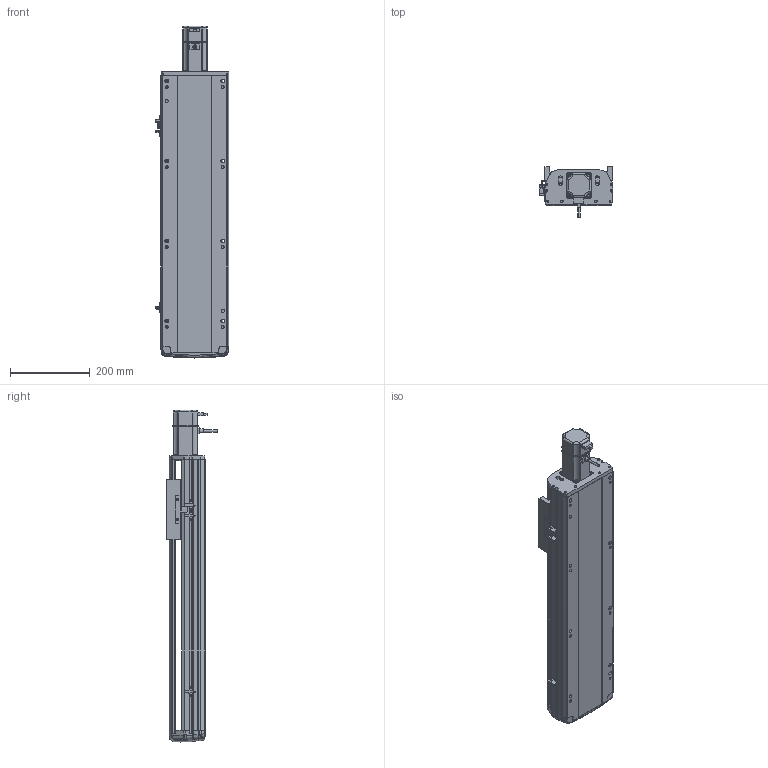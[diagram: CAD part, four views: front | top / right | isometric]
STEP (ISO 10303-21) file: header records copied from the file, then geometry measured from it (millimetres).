
FILE_DESCRIPTION (( 'STEP AP214' ), '1' );
FILE_NAME ('RTH17-XX-450-E-M40-C4（方程式）.STEP', '2025-10-24T05:39:44', ( '' ), ( '' ), 'SwSTEP 2.0', 'SolidWorks 2018', '' );
FILE_SCHEMA (( 'AUTOMOTIVE_DESIGN' ));
Length unit declared in the file: millimetre
Products named in the file (9): N_RTH17-GY-001P^RTH17-XX-XX-E-M40-C4（方程式）; N_RTH17-E-004丝杆螺母连接座^RTH17-XX-XX-E-M40-C4（方程式）; N_OMRON EE-SX672 換覜ん^RTH17-XX-XX-E-M40-C4ㄗ源最宒ㄘ; N_RTH17-E-008-P40电机板^RTH17-XX-XX-E-M40-C4（方程式）; N_RTH17-E-007上盖^RTH17-XX-XX-E-M40-C4（方程式）; N_RTH17-E-011底座^RTH17-XX-XX-E-M40-C4（方程式）; N_M40^RTH17-XX-XX-E-M40-C4（方程式）; RTH17-XX-450-E-M40-C4（方程式）; N_RTH-BL-012 感应片(外置)^RTH17-XX-XX-E-M40-C4（方程式）
Assembly tree (10 placements, depth 2):
  RTH17-XX-450-E-M40-C4（方程式）
    N_RTH17-E-011底座^RTH17-XX-XX-E-M40-C4（方程式）
    N_RTH17-E-007上盖^RTH17-XX-XX-E-M40-C4（方程式）
    N_RTH17-E-008-P40电机板^RTH17-XX-XX-E-M40-C4（方程式）
    N_OMRON EE-SX672 換覜ん^RTH17-XX-XX-E-M40-C4ㄗ源最宒ㄘ  x3
    N_RTH-BL-012 感应片(外置)^RTH17-XX-XX-E-M40-C4（方程式）
    N_RTH17-E-004丝杆螺母连接座^RTH17-XX-XX-E-M40-C4（方程式）
    N_RTH17-GY-001P^RTH17-XX-XX-E-M40-C4（方程式）
    N_M40^RTH17-XX-XX-E-M40-C4（方程式）
Bounding box: 183.5 x 127 x 830.77 mm (x, y, z)
Volume: 6037243 mm3; surface area: 832456.1 mm2
Topology: 9 solids, 11 shells, 1649 faces, 4603 edges, 3002 vertices
Faces by surface type: plane 825, cylinder 457, bspline 330, cone 28, torus 9
Entity records: 48029 total; most frequent: CARTESIAN_POINT 19270, ORIENTED_EDGE 6230, DIRECTION 5175, EDGE_CURVE 3119, VERTEX_POINT 2038, VECTOR 1759, LINE 1759, AXIS2_PLACEMENT_3D 1708
